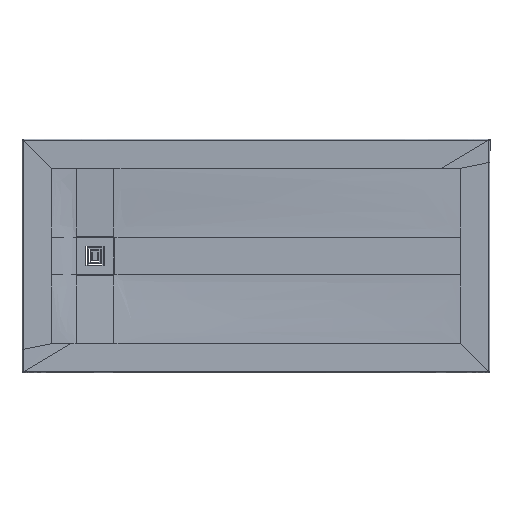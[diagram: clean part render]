
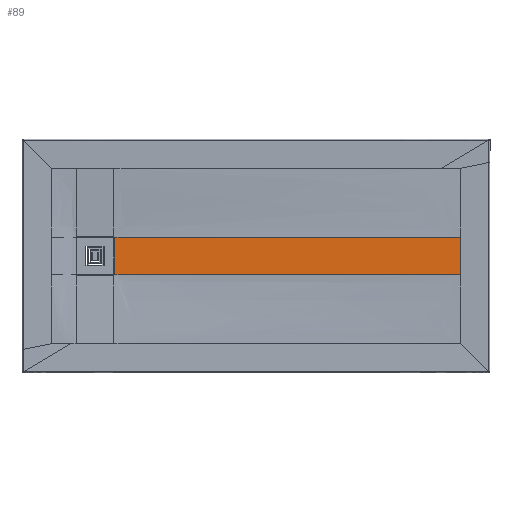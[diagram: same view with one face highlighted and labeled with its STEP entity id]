
A CAD part, top view. The second image highlights one B-rep face of the part: STEP entity #89.
In plain terms, the highlighted free-form (B-spline) face has degree [1, 5] with [2, 9] control points.
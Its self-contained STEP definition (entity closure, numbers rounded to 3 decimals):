
#89=ADVANCED_FACE('',(#207),#1914,.T.);
#207=FACE_OUTER_BOUND('',#325,.T.);
#325=EDGE_LOOP('',(#627,#628,#629,#630,#631,#632,#633,#634,#635,#636,#637,
#638));
#627=ORIENTED_EDGE('',*,*,#1107,.F.);
#628=ORIENTED_EDGE('',*,*,#1110,.F.);
#629=ORIENTED_EDGE('',*,*,#1049,.F.);
#630=ORIENTED_EDGE('',*,*,#1112,.F.);
#631=ORIENTED_EDGE('',*,*,#1117,.F.);
#632=ORIENTED_EDGE('',*,*,#1118,.F.);
#633=ORIENTED_EDGE('',*,*,#1170,.F.);
#634=ORIENTED_EDGE('',*,*,#1150,.F.);
#635=ORIENTED_EDGE('',*,*,#1121,.F.);
#636=ORIENTED_EDGE('',*,*,#1169,.T.);
#637=ORIENTED_EDGE('',*,*,#1168,.T.);
#638=ORIENTED_EDGE('',*,*,#1104,.F.);
#1049=EDGE_CURVE('',#1698,#1697,#1391,.T.);
#1104=EDGE_CURVE('',#1735,#1734,#1438,.T.);
#1107=EDGE_CURVE('',#1736,#1735,#1441,.T.);
#1110=EDGE_CURVE('',#1697,#1736,#1444,.T.);
#1112=EDGE_CURVE('',#1738,#1698,#1446,.T.);
#1117=EDGE_CURVE('',#1740,#1738,#1451,.T.);
#1118=EDGE_CURVE('',#1741,#1740,#1452,.T.);
#1121=EDGE_CURVE('',#1742,#1744,#1455,.T.);
#1150=EDGE_CURVE('',#1744,#1761,#1483,.T.);
#1168=EDGE_CURVE('',#1769,#1734,#1500,.T.);
#1169=EDGE_CURVE('',#1742,#1769,#1501,.T.);
#1170=EDGE_CURVE('',#1761,#1741,#1502,.T.);
#1391=B_SPLINE_CURVE_WITH_KNOTS('',1,(#6472,#6473),.UNSPECIFIED.,.F.,.F.,
(2,2),(-121.6,0.),.UNSPECIFIED.);
#1438=B_SPLINE_CURVE_WITH_KNOTS('',3,(#6767,#6768,#6769,#6770),
 .UNSPECIFIED.,.F.,.F.,(4,4),(33.65,39.229),
 .UNSPECIFIED.);
#1441=B_SPLINE_CURVE_WITH_KNOTS('',3,(#6783,#6784,#6785,#6786),
 .UNSPECIFIED.,.F.,.F.,(4,4),(-1.73,0.),
 .UNSPECIFIED.);
#1444=B_SPLINE_CURVE_WITH_KNOTS('',3,(#6799,#6800,#6801,#6802),
 .UNSPECIFIED.,.F.,.F.,(4,4),(0.,1.877),.UNSPECIFIED.);
#1446=B_SPLINE_CURVE_WITH_KNOTS('',3,(#6809,#6810,#6811,#6812),
 .UNSPECIFIED.,.F.,.F.,(4,4),(-1.877,0.),
 .UNSPECIFIED.);
#1451=B_SPLINE_CURVE_WITH_KNOTS('',5,(#6837,#6838,#6839,#6840,#6841,#6842),
 .UNSPECIFIED.,.F.,.F.,(6,6),(-3.056,-1.325),
 .UNSPECIFIED.);
#1452=B_SPLINE_CURVE_WITH_KNOTS('',3,(#6843,#6844,#6845,#6846),
 .UNSPECIFIED.,.F.,.F.,(4,4),(38.515,42.659),
 .UNSPECIFIED.);
#1455=B_SPLINE_CURVE_WITH_KNOTS('',1,(#6883,#6884),.UNSPECIFIED.,.F.,.F.,
(2,2),(0.,129.),.UNSPECIFIED.);
#1483=B_SPLINE_CURVE_WITH_KNOTS('',5,(#7063,#7064,#7065,#7066,#7067,#7068),
 .UNSPECIFIED.,.F.,.F.,(6,6),(-1775.641,0.),.UNSPECIFIED.);
#1500=B_SPLINE_CURVE_WITH_KNOTS('',1,(#7182,#7183),.UNSPECIFIED.,.F.,.F.,
(2,2),(-0.272,0.),.UNSPECIFIED.);
#1501=B_SPLINE_CURVE_WITH_KNOTS('',5,(#7184,#7185,#7186,#7187,#7188,#7189),
 .UNSPECIFIED.,.F.,.F.,(6,6),(-1185.623,0.),.UNSPECIFIED.);
#1502=B_SPLINE_CURVE_WITH_KNOTS('',1,(#7190,#7191),.UNSPECIFIED.,.F.,.F.,
(2,2),(0.,0.609),.UNSPECIFIED.);
#1697=VERTEX_POINT('',#6323);
#1698=VERTEX_POINT('',#6324);
#1734=VERTEX_POINT('',#6360);
#1735=VERTEX_POINT('',#6361);
#1736=VERTEX_POINT('',#6362);
#1738=VERTEX_POINT('',#6364);
#1740=VERTEX_POINT('',#6366);
#1741=VERTEX_POINT('',#6367);
#1742=VERTEX_POINT('',#6368);
#1744=VERTEX_POINT('',#6370);
#1761=VERTEX_POINT('',#6387);
#1769=VERTEX_POINT('',#6395);
#1914=B_SPLINE_SURFACE_WITH_KNOTS('',1,5,((#5510,#5511,#5512,#5513,#5514,
#5515,#5516,#5517,#5518),(#5519,#5520,#5521,#5522,#5523,#5524,#5525,#5526,
#5527)),.UNSPECIFIED.,.F.,.F.,.F.,(2,2),(6,3,6),(-12.96,141.96),(-1.361,
0.,1185.566),.UNSPECIFIED.);
#5510=CARTESIAN_POINT('',(-485.772,75.028,0.2));
#5511=CARTESIAN_POINT('',(-485.718,75.028,0.2));
#5512=CARTESIAN_POINT('',(-485.663,75.028,0.2));
#5513=CARTESIAN_POINT('',(-485.609,75.028,0.2));
#5514=CARTESIAN_POINT('',(-438.132,75.028,0.2));
#5515=CARTESIAN_POINT('',(-390.655,75.028,0.2));
#5516=CARTESIAN_POINT('',(605.185,75.028,10.305));
#5517=CARTESIAN_POINT('',(652.592,75.028,11.503));
#5518=CARTESIAN_POINT('',(700.,75.028,12.7));
#5519=CARTESIAN_POINT('',(-485.772,-79.892,0.2));
#5520=CARTESIAN_POINT('',(-485.718,-79.892,0.2));
#5521=CARTESIAN_POINT('',(-485.663,-79.892,0.2));
#5522=CARTESIAN_POINT('',(-485.609,-79.892,0.2));
#5523=CARTESIAN_POINT('',(-438.132,-79.892,0.2));
#5524=CARTESIAN_POINT('',(-390.655,-79.892,0.2));
#5525=CARTESIAN_POINT('',(605.185,-79.892,10.305));
#5526=CARTESIAN_POINT('',(652.592,-79.892,11.503));
#5527=CARTESIAN_POINT('',(700.,-79.892,12.7));
#6323=CARTESIAN_POINT('',(-484.584,58.368,0.2));
#6324=CARTESIAN_POINT('',(-484.584,-63.232,0.2));
#6360=CARTESIAN_POINT('',(-485.772,62.068,0.2));
#6361=CARTESIAN_POINT('',(-484.75,60.482,0.2));
#6362=CARTESIAN_POINT('',(-484.584,59.402,0.2));
#6364=CARTESIAN_POINT('',(-484.584,-64.265,0.2));
#6366=CARTESIAN_POINT('',(-484.75,-65.345,0.2));
#6367=CARTESIAN_POINT('',(-485.5,-66.659,0.2));
#6368=CARTESIAN_POINT('',(700.,62.068,12.7));
#6370=CARTESIAN_POINT('',(700.,-66.932,12.7));
#6387=CARTESIAN_POINT('',(-485.5,-66.932,0.2));
#6395=CARTESIAN_POINT('',(-485.5,62.068,0.2));
#6472=CARTESIAN_POINT('',(-484.584,-63.232,0.2));
#6473=CARTESIAN_POINT('',(-484.584,58.368,0.2));
#6767=CARTESIAN_POINT('',(-484.75,60.482,0.2));
#6768=CARTESIAN_POINT('',(-485.008,61.3,0.2));
#6769=CARTESIAN_POINT('',(-485.487,61.812,0.2));
#6770=CARTESIAN_POINT('',(-485.772,62.068,0.2));
#6783=CARTESIAN_POINT('',(-484.584,59.402,0.2));
#6784=CARTESIAN_POINT('',(-484.584,59.891,0.2));
#6785=CARTESIAN_POINT('',(-484.683,60.268,0.2));
#6786=CARTESIAN_POINT('',(-484.75,60.482,0.2));
#6799=CARTESIAN_POINT('',(-484.584,58.368,0.2));
#6800=CARTESIAN_POINT('',(-484.584,58.713,0.2));
#6801=CARTESIAN_POINT('',(-484.584,59.058,0.2));
#6802=CARTESIAN_POINT('',(-484.584,59.402,0.2));
#6809=CARTESIAN_POINT('',(-484.584,-64.265,0.2));
#6810=CARTESIAN_POINT('',(-484.584,-63.921,0.2));
#6811=CARTESIAN_POINT('',(-484.584,-63.576,0.2));
#6812=CARTESIAN_POINT('',(-484.584,-63.232,0.2));
#6837=CARTESIAN_POINT('',(-484.75,-65.345,0.2));
#6838=CARTESIAN_POINT('',(-484.698,-65.18,0.2));
#6839=CARTESIAN_POINT('',(-484.65,-64.994,0.2));
#6840=CARTESIAN_POINT('',(-484.607,-64.781,0.2));
#6841=CARTESIAN_POINT('',(-484.584,-64.524,0.2));
#6842=CARTESIAN_POINT('',(-484.584,-64.265,0.2));
#6843=CARTESIAN_POINT('',(-485.5,-66.659,0.2));
#6844=CARTESIAN_POINT('',(-485.278,-66.412,0.2));
#6845=CARTESIAN_POINT('',(-484.95,-65.978,0.2));
#6846=CARTESIAN_POINT('',(-484.75,-65.345,0.2));
#6883=CARTESIAN_POINT('',(700.,62.068,12.7));
#6884=CARTESIAN_POINT('',(700.,-66.932,12.7));
#7063=CARTESIAN_POINT('',(700.,-66.932,12.7));
#7064=CARTESIAN_POINT('',(652.592,-66.932,11.503));
#7065=CARTESIAN_POINT('',(605.185,-66.932,10.305));
#7066=CARTESIAN_POINT('',(-390.655,-66.932,0.2));
#7067=CARTESIAN_POINT('',(-438.077,-66.932,0.2));
#7068=CARTESIAN_POINT('',(-485.5,-66.932,0.2));
#7182=CARTESIAN_POINT('',(-485.5,62.068,0.2));
#7183=CARTESIAN_POINT('',(-485.772,62.068,0.2));
#7184=CARTESIAN_POINT('',(700.,62.068,12.7));
#7185=CARTESIAN_POINT('',(652.592,62.068,11.503));
#7186=CARTESIAN_POINT('',(605.185,62.068,10.305));
#7187=CARTESIAN_POINT('',(-390.655,62.068,0.2));
#7188=CARTESIAN_POINT('',(-438.077,62.068,0.2));
#7189=CARTESIAN_POINT('',(-485.5,62.068,0.2));
#7190=CARTESIAN_POINT('',(-485.5,-66.932,0.2));
#7191=CARTESIAN_POINT('',(-485.5,-66.659,0.2));
